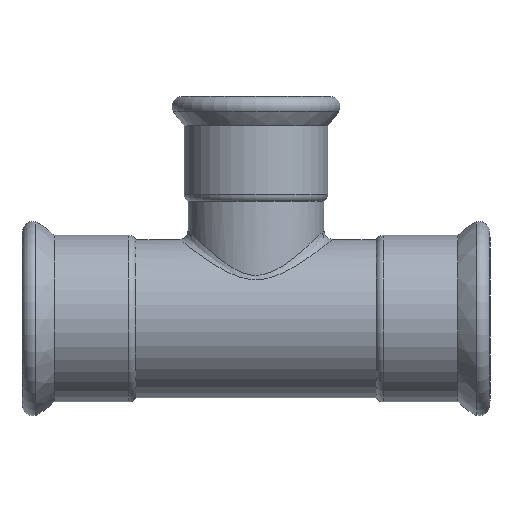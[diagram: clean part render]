
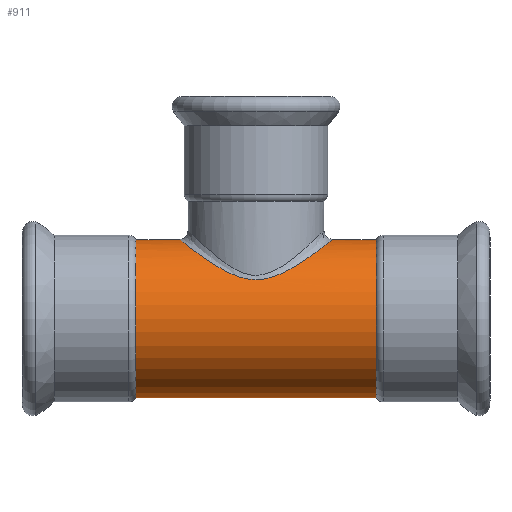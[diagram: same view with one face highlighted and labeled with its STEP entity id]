
A CAD part, front view. The second image highlights one B-rep face of the part: STEP entity #911.
In plain terms, the highlighted cylindrical face has radius 44.45 mm (diameter 88.9 mm), a full revolution.
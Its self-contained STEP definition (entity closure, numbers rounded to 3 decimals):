
#20=B_SPLINE_CURVE_WITH_KNOTS('',3,(#2310,#2311,#2312,#2313,#2314,#2315,
#2316,#2317,#2318,#2319,#2320,#2321,#2322,#2323,#2324,#2325,#2326,#2327,
#2328,#2329,#2330,#2331,#2332,#2333,#2334,#2335,#2336,#2337,#2338,#2339,
#2340,#2341,#2342,#2343,#2344),.UNSPECIFIED.,.T.,.F.,(4,1,1,1,1,1,1,1,1,
1,1,1,1,1,1,1,1,1,1,1,1,1,1,1,1,1,1,1,1,1,1,1,4),(-25.053,-24.606,
-24.158,-23.264,-22.369,-21.474,
-20.579,-19.685,-18.79,-17.895,
-16.702,-15.509,-14.913,-14.316,
-13.72,-13.123,-12.527,-11.93,
-11.334,-10.737,-10.141,-9.544,
-8.351,-7.158,-5.965,-4.772,
-4.474,-3.579,-2.684,-1.79,
-0.895,-0.447,0.),.UNSPECIFIED.);
#40=LINE('',#2356,#62);
#62=VECTOR('',#1331,44.45);
#80=CYLINDRICAL_SURFACE('',#1049,44.45);
#108=FACE_BOUND('',#180,.T.);
#134=FACE_OUTER_BOUND('',#179,.T.);
#179=EDGE_LOOP('',(#756,#757,#758,#759,#760,#761,#762,#763));
#180=EDGE_LOOP('',(#764));
#278=CIRCLE('',#1050,44.45);
#279=CIRCLE('',#1051,44.45);
#280=CIRCLE('',#1052,44.45);
#281=CIRCLE('',#1053,44.45);
#282=CIRCLE('',#1054,44.45);
#283=CIRCLE('',#1055,44.45);
#393=VERTEX_POINT('',#2267);
#397=VERTEX_POINT('',#2350);
#398=VERTEX_POINT('',#2351);
#399=VERTEX_POINT('',#2353);
#400=VERTEX_POINT('',#2355);
#401=VERTEX_POINT('',#2357);
#402=VERTEX_POINT('',#2359);
#528=EDGE_CURVE('',#393,#393,#20,.T.);
#531=EDGE_CURVE('',#397,#398,#278,.T.);
#532=EDGE_CURVE('',#399,#397,#279,.T.);
#533=EDGE_CURVE('',#399,#400,#40,.T.);
#534=EDGE_CURVE('',#400,#401,#280,.T.);
#535=EDGE_CURVE('',#401,#402,#281,.T.);
#536=EDGE_CURVE('',#402,#400,#282,.T.);
#537=EDGE_CURVE('',#398,#399,#283,.T.);
#756=ORIENTED_EDGE('',*,*,#531,.F.);
#757=ORIENTED_EDGE('',*,*,#532,.F.);
#758=ORIENTED_EDGE('',*,*,#533,.T.);
#759=ORIENTED_EDGE('',*,*,#534,.T.);
#760=ORIENTED_EDGE('',*,*,#535,.T.);
#761=ORIENTED_EDGE('',*,*,#536,.T.);
#762=ORIENTED_EDGE('',*,*,#533,.F.);
#763=ORIENTED_EDGE('',*,*,#537,.F.);
#764=ORIENTED_EDGE('',*,*,#528,.F.);
#911=ADVANCED_FACE('',(#134,#108),#80,.T.);
#1049=AXIS2_PLACEMENT_3D('',#2349,#1325,#1326);
#1050=AXIS2_PLACEMENT_3D('',#2352,#1327,#1328);
#1051=AXIS2_PLACEMENT_3D('',#2354,#1329,#1330);
#1052=AXIS2_PLACEMENT_3D('',#2358,#1332,#1333);
#1053=AXIS2_PLACEMENT_3D('',#2360,#1334,#1335);
#1054=AXIS2_PLACEMENT_3D('',#2361,#1336,#1337);
#1055=AXIS2_PLACEMENT_3D('',#2362,#1338,#1339);
#1325=DIRECTION('center_axis',(1.,0.,0.));
#1326=DIRECTION('ref_axis',(0.,1.,0.));
#1327=DIRECTION('center_axis',(1.,0.,0.));
#1328=DIRECTION('ref_axis',(0.,1.,0.));
#1329=DIRECTION('center_axis',(1.,0.,0.));
#1330=DIRECTION('ref_axis',(0.,1.,0.));
#1331=DIRECTION('',(-1.,0.,0.));
#1332=DIRECTION('center_axis',(1.,0.,0.));
#1333=DIRECTION('ref_axis',(0.,1.,0.));
#1334=DIRECTION('center_axis',(1.,0.,0.));
#1335=DIRECTION('ref_axis',(0.,1.,0.));
#1336=DIRECTION('center_axis',(1.,0.,0.));
#1337=DIRECTION('ref_axis',(0.,1.,0.));
#1338=DIRECTION('center_axis',(1.,0.,0.));
#1339=DIRECTION('ref_axis',(0.,1.,0.));
#2267=CARTESIAN_POINT('',(0.,-38.697,21.871));
#2310=CARTESIAN_POINT('Ctrl Pts',(0.,-38.697,
21.871));
#2311=CARTESIAN_POINT('Ctrl Pts',(1.732,-38.697,21.871));
#2312=CARTESIAN_POINT('Ctrl Pts',(5.204,-38.505,22.214));
#2313=CARTESIAN_POINT('Ctrl Pts',(11.753,-37.43,24.036));
#2314=CARTESIAN_POINT('Ctrl Pts',(19.132,-34.987,27.632));
#2315=CARTESIAN_POINT('Ctrl Pts',(26.756,-30.671,32.417));
#2316=CARTESIAN_POINT('Ctrl Pts',(33.337,-24.957,37.055));
#2317=CARTESIAN_POINT('Ctrl Pts',(38.616,-17.836,41.009));
#2318=CARTESIAN_POINT('Ctrl Pts',(42.197,-9.365,43.78));
#2319=CARTESIAN_POINT('Ctrl Pts',(43.474,-0.008,
44.784));
#2320=CARTESIAN_POINT('Ctrl Pts',(42.066,10.375,43.677));
#2321=CARTESIAN_POINT('Ctrl Pts',(37.208,20.576,39.922));
#2322=CARTESIAN_POINT('Ctrl Pts',(30.545,27.68,35.026));
#2323=CARTESIAN_POINT('Ctrl Pts',(24.184,32.17,30.783));
#2324=CARTESIAN_POINT('Ctrl Pts',(18.986,34.871,27.653));
#2325=CARTESIAN_POINT('Ctrl Pts',(13.245,36.966,24.755));
#2326=CARTESIAN_POINT('Ctrl Pts',(6.933,38.351,22.497));
#2327=CARTESIAN_POINT('Ctrl Pts',(0.002,38.871,
21.556));
#2328=CARTESIAN_POINT('Ctrl Pts',(-6.921,38.353,22.493));
#2329=CARTESIAN_POINT('Ctrl Pts',(-13.246,36.967,24.753));
#2330=CARTESIAN_POINT('Ctrl Pts',(-19.034,34.853,27.678));
#2331=CARTESIAN_POINT('Ctrl Pts',(-24.226,32.14,30.81));
#2332=CARTESIAN_POINT('Ctrl Pts',(-30.566,27.669,35.041));
#2333=CARTESIAN_POINT('Ctrl Pts',(-37.207,20.555,39.921));
#2334=CARTESIAN_POINT('Ctrl Pts',(-42.507,9.487,44.018));
#2335=CARTESIAN_POINT('Ctrl Pts',(-43.664,-3.218,44.935));
#2336=CARTESIAN_POINT('Ctrl Pts',(-41.146,-12.267,42.957));
#2337=CARTESIAN_POINT('Ctrl Pts',(-37.431,-19.437,40.121));
#2338=CARTESIAN_POINT('Ctrl Pts',(-33.331,-24.966,37.051));
#2339=CARTESIAN_POINT('Ctrl Pts',(-26.713,-30.705,32.387));
#2340=CARTESIAN_POINT('Ctrl Pts',(-19.082,-35.004,27.606));
#2341=CARTESIAN_POINT('Ctrl Pts',(-11.76,-37.427,24.04));
#2342=CARTESIAN_POINT('Ctrl Pts',(-5.2,-38.506,22.212));
#2343=CARTESIAN_POINT('Ctrl Pts',(-1.732,-38.697,21.871));
#2344=CARTESIAN_POINT('Ctrl Pts',(0.,-38.697,
21.871));
#2349=CARTESIAN_POINT('Origin',(57.523,0.,0.));
#2350=CARTESIAN_POINT('',(67.547,44.45,0.));
#2351=CARTESIAN_POINT('',(67.547,0.,44.45));
#2352=CARTESIAN_POINT('Origin',(67.547,0.,0.));
#2353=CARTESIAN_POINT('',(67.547,-44.45,0.));
#2354=CARTESIAN_POINT('Origin',(67.547,0.,0.));
#2355=CARTESIAN_POINT('',(-67.547,-44.45,0.));
#2356=CARTESIAN_POINT('',(57.523,-44.45,0.));
#2357=CARTESIAN_POINT('',(-67.547,44.45,0.));
#2358=CARTESIAN_POINT('Origin',(-67.547,0.,0.));
#2359=CARTESIAN_POINT('',(-67.547,0.,44.45));
#2360=CARTESIAN_POINT('Origin',(-67.547,0.,0.));
#2361=CARTESIAN_POINT('Origin',(-67.547,0.,0.));
#2362=CARTESIAN_POINT('Origin',(67.547,0.,0.));
